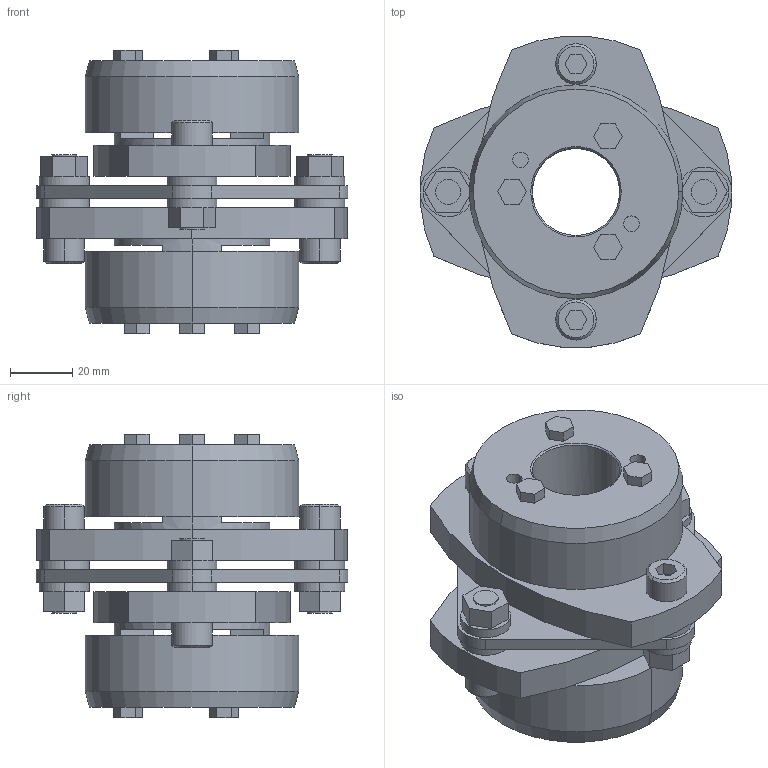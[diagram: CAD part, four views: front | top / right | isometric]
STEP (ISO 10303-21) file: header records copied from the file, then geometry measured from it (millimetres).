
FILE_DESCRIPTION((''),'2;1');
FILE_NAME('LCS-100T7-28×28.stp','2015-11-02T07:46:56',(''),(''),'AutoCAD STEP 2000i','AutoCAD 2000i',', , ');
FILE_SCHEMA(('CONFIG_CONTROL_DESIGN'));
Length unit declared in the file: millimetre
Products named in the file (8): LCS-100T7-28×28; 忣兜1; LC100T7-T028; LC100T7-T028-1; LC100T7-T025; LC100T7-T022-1; LC100T7-T022; LCS100-ITA
Assembly tree (7 placements, depth 2):
  LCS-100T7-28×28
    忣兜1
    LC100T7-T028
    LC100T7-T028-1
    LC100T7-T025
    LC100T7-T022-1
    LC100T7-T022
    LCS100-ITA
Bounding box: 100 x 99.93 x 91 mm (x, y, z)
Volume: 271656.6 mm3; surface area: 65420 mm2
Topology: 1 solids, 1 shells, 232 faces, 568 edges, 372 vertices
Faces by surface type: plane 132, cylinder 80, cone 20
Entity records: 7077 total; most frequent: DIRECTION 1244, CARTESIAN_POINT 1180, ORIENTED_EDGE 1136, EDGE_CURVE 568, AXIS2_PLACEMENT_3D 436, VERTEX_POINT 372, VECTOR 372, LINE 372
